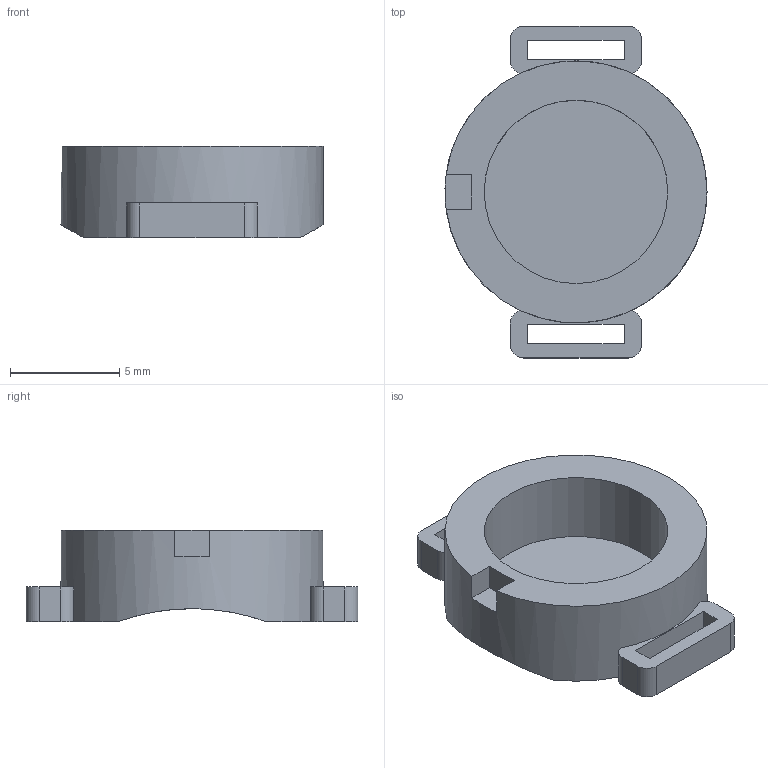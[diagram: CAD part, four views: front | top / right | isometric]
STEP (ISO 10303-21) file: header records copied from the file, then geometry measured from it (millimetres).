
FILE_DESCRIPTION(('Open CASCADE Model'),'2;1');
FILE_NAME('Open CASCADE Shape Model','2026-10-04T21:33:04',('Author'),( 'Open CASCADE'),'Open CASCADE STEP processor 7.9','Open CASCADE 7.9' ,'Unknown');
FILE_SCHEMA(('AUTOMOTIVE_DESIGN { 1 0 10303 214 1 1 1 1 }'));
Length unit declared in the file: millimetre
Products named in the file (1): Open CASCADE STEP translator 7.9 3
Bounding box: 12 x 15.2 x 4.2 mm (x, y, z)
Volume: 279.8 mm3; surface area: 547.1 mm2
Topology: 1 solids, 1 shells, 35 faces, 96 edges, 64 vertices
Faces by surface type: plane 24, cylinder 11
Full cylindrical faces by diameter (mm): 8.4 x1, 12 x1
Entity records: 2532 total; most frequent: CARTESIAN_POINT 635, DIRECTION 344, LINE 203, VECTOR 203, ORIENTED_EDGE 192, PCURVE 192, DEFINITIONAL_REPRESENTATION 192, EDGE_CURVE 96
